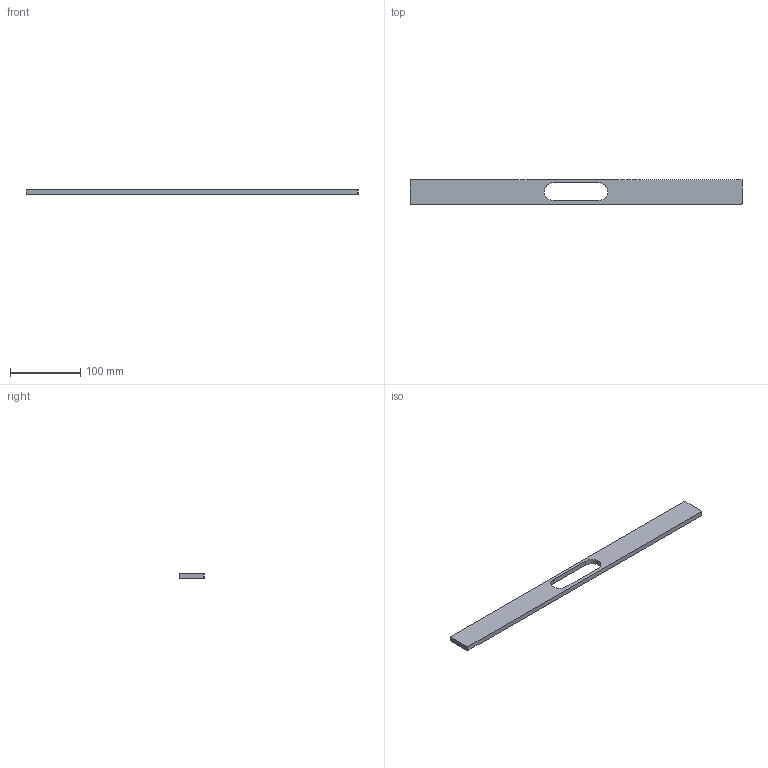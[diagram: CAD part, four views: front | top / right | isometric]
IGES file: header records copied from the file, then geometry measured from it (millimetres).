
Start section: Data from Parasolid IGES Translator 15.0.47, Copyright(c) 2006 Siemens P LM Software. All Rights Reserved.
Global section: file name: 9064820.igs; native system:  By UGS Corp.; preprocessor: XPlus GENERIC/IGES 3.0; author: Noname; organization: Noname; date: 20140122.183318; units: millimetre
Bounding box: 472 x 35 x 7 mm (x, y, z)
Surface area: 37560.2 mm2 (no closed solid volume)
Topology: 0 solids, 0 shells, 17 faces, 78 edges, 76 vertices
Faces by surface type: extrusion 10, revolution 7
